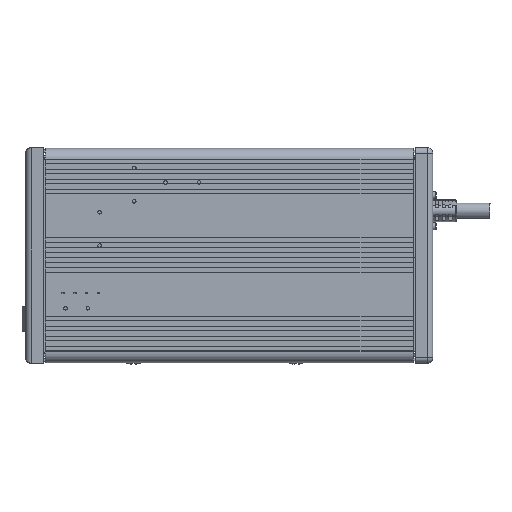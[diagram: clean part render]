
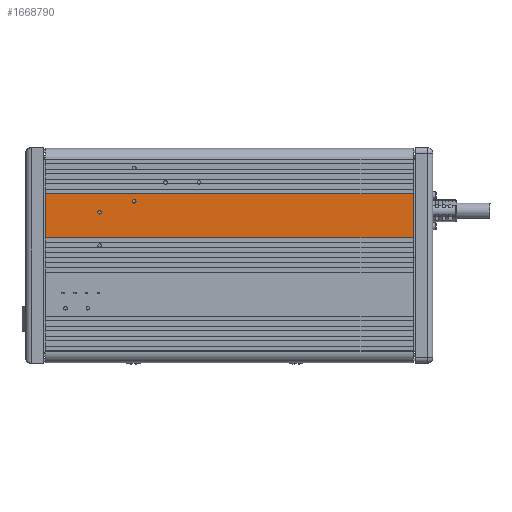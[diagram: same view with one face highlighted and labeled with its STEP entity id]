
A CAD part, front view. The second image highlights one B-rep face of the part: STEP entity #1668790.
In plain terms, the highlighted planar face has unit normal (0, -1, 0) as drawn and (1, 0, 0) by its records, which use the part's own axes.
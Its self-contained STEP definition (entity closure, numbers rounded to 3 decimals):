
#1652860=CARTESIAN_POINT('',(38.193,49.73,0.));
#1652870=VERTEX_POINT('',#1652860);
#1652900=CARTESIAN_POINT('',(38.193,49.73,0.));
#1652910=DIRECTION('',(0.,1.,0.));
#1652920=VECTOR('',#1652910,1.);
#1652930=LINE('',#1652900,#1652920);
#1652940=CARTESIAN_POINT('',(38.193,69.48,0.));
#1652950=VERTEX_POINT('',#1652940);
#1652960=EDGE_CURVE('',#1652870,#1652950,#1652930,.T.);
#1659570=CARTESIAN_POINT('',(38.193,69.48,165.));
#1659580=VERTEX_POINT('',#1659570);
#1659610=CARTESIAN_POINT('',(38.193,69.48,165.));
#1659620=DIRECTION('',(0.,-1.,0.));
#1659630=VECTOR('',#1659620,1.);
#1659640=LINE('',#1659610,#1659630);
#1659650=CARTESIAN_POINT('',(38.193,49.73,165.));
#1659660=VERTEX_POINT('',#1659650);
#1659670=EDGE_CURVE('',#1659580,#1659660,#1659640,.T.);
#1668530=CARTESIAN_POINT('',(38.193,69.48,0.));
#1668540=DIRECTION('',(0.,0.,1.));
#1668550=VECTOR('',#1668540,1.);
#1668560=LINE('',#1668530,#1668550);
#1668570=EDGE_CURVE('',#1652950,#1659580,#1668560,.T.);
#1668630=CARTESIAN_POINT('',(38.193,67.48,0.));
#1668640=DIRECTION('',(1.,-0.,0.));
#1668650=DIRECTION('',(0.,0.,-1.));
#1668660=AXIS2_PLACEMENT_3D('',#1668630,#1668640,#1668650);
#1668670=PLANE('',#1668660);
#1668680=ORIENTED_EDGE('',*,*,#1668570,.T.);
#1668690=ORIENTED_EDGE('',*,*,#1652960,.T.);
#1668700=CARTESIAN_POINT('',(38.193,49.73,0.));
#1668710=DIRECTION('',(0.,0.,1.));
#1668720=VECTOR('',#1668710,1.);
#1668730=LINE('',#1668700,#1668720);
#1668740=EDGE_CURVE('',#1652870,#1659660,#1668730,.T.);
#1668750=ORIENTED_EDGE('',*,*,#1668740,.F.);
#1668760=ORIENTED_EDGE('',*,*,#1659670,.T.);
#1668770=EDGE_LOOP('',(#1668760,#1668750,#1668690,#1668680));
#1668780=FACE_OUTER_BOUND('',#1668770,.T.);
#1668790=ADVANCED_FACE('',(#1668780),#1668670,.T.);
